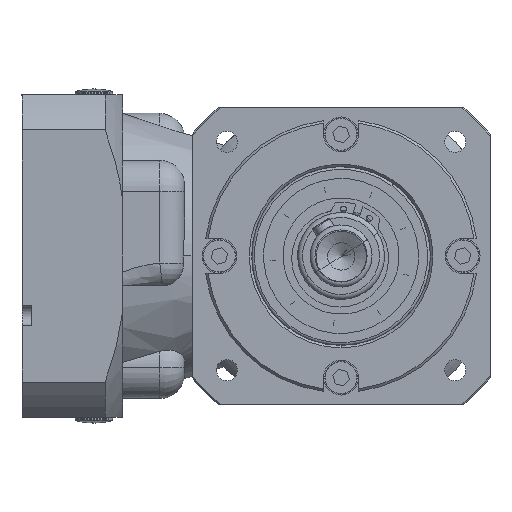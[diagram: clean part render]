
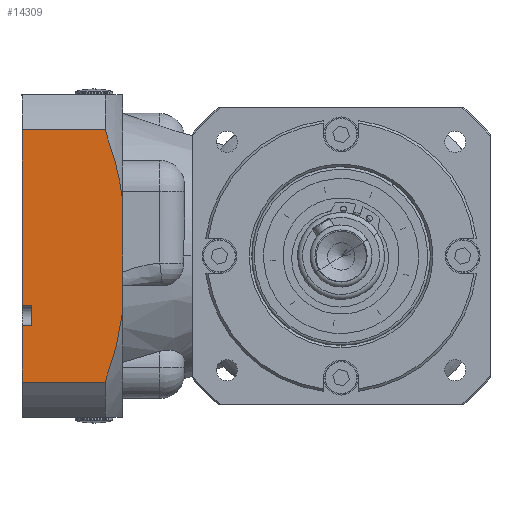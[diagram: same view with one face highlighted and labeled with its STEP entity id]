
A CAD part, left-side view. The second image highlights one B-rep face of the part: STEP entity #14309.
In plain terms, the highlighted planar face has unit normal (-1, 0, 0).
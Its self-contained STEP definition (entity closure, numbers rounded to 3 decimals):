
#297 = VERTEX_POINT ( 'NONE', #8775 ) ;
#523 = B_SPLINE_CURVE_WITH_KNOTS ( 'NONE', 3,
 ( #35094, #28456, #34962, #5567, #41083, #34814 ),
 .UNSPECIFIED., .F., .F.,
 ( 4, 2, 4 ),
 ( 0.023, 0.037, 0.052 ),
 .UNSPECIFIED. ) ;
#2352 = EDGE_LOOP ( 'NONE', ( #28753, #5098, #32883, #12032, #35536, #11761, #18416, #12507, #22423, #6814 ) ) ;
#2973 = LINE ( 'NONE', #25525, #25383 ) ;
#3571 = CARTESIAN_POINT ( 'NONE',  ( 108., 91.85, 41.691 ) ) ;
#4203 = CARTESIAN_POINT ( 'NONE',  ( 108., 88., 22.62 ) ) ;
#5098 = ORIENTED_EDGE ( 'NONE', *, *, #40612, .T. ) ;
#5104 = CARTESIAN_POINT ( 'NONE',  ( 108., 128.5, -65. ) ) ;
#5303 = VERTEX_POINT ( 'NONE', #26028 ) ;
#5336 = DIRECTION ( 'NONE',  ( 0., 1., 0. ) ) ;
#5567 = CARTESIAN_POINT ( 'NONE',  ( 108., 91.815, -41.566 ) ) ;
#6047 = DIRECTION ( 'NONE',  ( 0., -1., 0. ) ) ;
#6814 = ORIENTED_EDGE ( 'NONE', *, *, #23579, .F. ) ;
#6817 = CARTESIAN_POINT ( 'NONE',  ( 108., 90.109, 34.624 ) ) ;
#6864 = CARTESIAN_POINT ( 'NONE',  ( 108., 128.5, -28. ) ) ;
#7565 = CARTESIAN_POINT ( 'NONE',  ( 108., 128.5, 50.806 ) ) ;
#8084 = CARTESIAN_POINT ( 'NONE',  ( 108., 88., -65. ) ) ;
#8118 = EDGE_CURVE ( 'NONE', #33348, #28745, #2973, .T. ) ;
#8775 = CARTESIAN_POINT ( 'NONE',  ( 108., 95.052, -50.806 ) ) ;
#10093 = CARTESIAN_POINT ( 'NONE',  ( 108., 88.322, 25.033 ) ) ;
#11761 = ORIENTED_EDGE ( 'NONE', *, *, #20889, .T. ) ;
#11787 = EDGE_CURVE ( 'NONE', #39657, #33348, #11956, .T. ) ;
#11956 = LINE ( 'NONE', #17117, #36845 ) ;
#12003 = VECTOR ( 'NONE', #41308, 1000. ) ;
#12032 = ORIENTED_EDGE ( 'NONE', *, *, #8118, .F. ) ;
#12507 = ORIENTED_EDGE ( 'NONE', *, *, #21723, .T. ) ;
#13171 = CARTESIAN_POINT ( 'NONE',  ( 108., 124.5, -65. ) ) ;
#13729 = VECTOR ( 'NONE', #37725, 1000. ) ;
#14309 = ADVANCED_FACE ( 'NONE', ( #38707 ), #28135, .F. ) ;
#14612 = VERTEX_POINT ( 'NONE', #4203 ) ;
#14615 = VERTEX_POINT ( 'NONE', #19972 ) ;
#16766 = AXIS2_PLACEMENT_3D ( 'NONE', #5104, #41041, #40906 ) ;
#16784 = CARTESIAN_POINT ( 'NONE',  ( 108., 93.288, 46.305 ) ) ;
#17117 = CARTESIAN_POINT ( 'NONE',  ( 108., 128.5, -65. ) ) ;
#17582 = CARTESIAN_POINT ( 'NONE',  ( 108., 128.5, -28. ) ) ;
#17714 = CARTESIAN_POINT ( 'NONE',  ( 108., 85.5, -50.806 ) ) ;
#17837 = EDGE_CURVE ( 'NONE', #14615, #5303, #20626, .T. ) ;
#18071 = EDGE_CURVE ( 'NONE', #39174, #297, #523, .T. ) ;
#18416 = ORIENTED_EDGE ( 'NONE', *, *, #17837, .F. ) ;
#18729 = VECTOR ( 'NONE', #5336, 1000. ) ;
#19278 = CARTESIAN_POINT ( 'NONE',  ( 108., 95.052, 50.806 ) ) ;
#19740 = LINE ( 'NONE', #17714, #18729 ) ;
#19972 = CARTESIAN_POINT ( 'NONE',  ( 108., 124.5, -28. ) ) ;
#20626 = LINE ( 'NONE', #13171, #36877 ) ;
#20889 = EDGE_CURVE ( 'NONE', #39657, #5303, #28081, .T. ) ;
#21723 = EDGE_CURVE ( 'NONE', #14615, #39130, #21891, .T. ) ;
#21891 = LINE ( 'NONE', #17582, #33056 ) ;
#21999 = B_SPLINE_CURVE_WITH_KNOTS ( 'NONE', 3,
 ( #29163, #16784, #3571, #6817, #39507, #29574, #10093, #23325 ),
 .UNSPECIFIED., .F., .F.,
 ( 4, 2, 2, 4 ),
 ( 0.525, 0.539, 0.546, 0.553 ),
 .UNSPECIFIED. ) ;
#22262 = CARTESIAN_POINT ( 'NONE',  ( 108., 128.5, -65. ) ) ;
#22361 = LINE ( 'NONE', #8084, #13729 ) ;
#22423 = ORIENTED_EDGE ( 'NONE', *, *, #35267, .F. ) ;
#23325 = CARTESIAN_POINT ( 'NONE',  ( 108., 88., 22.62 ) ) ;
#23579 = EDGE_CURVE ( 'NONE', #297, #27554, #19740, .T. ) ;
#24140 = DIRECTION ( 'NONE',  ( 0., 1., 0. ) ) ;
#25383 = VECTOR ( 'NONE', #6047, 1000. ) ;
#25525 = CARTESIAN_POINT ( 'NONE',  ( 108., 85.5, 50.806 ) ) ;
#25555 = DIRECTION ( 'NONE',  ( 0., 0., 1. ) ) ;
#26028 = CARTESIAN_POINT ( 'NONE',  ( 108., 124.5, -20. ) ) ;
#26380 = CARTESIAN_POINT ( 'NONE',  ( 108., 88., -22.62 ) ) ;
#27068 = EDGE_CURVE ( 'NONE', #28745, #14612, #21999, .T. ) ;
#27554 = VERTEX_POINT ( 'NONE', #39754 ) ;
#28081 = LINE ( 'NONE', #28804, #37701 ) ;
#28135 = PLANE ( 'NONE',  #16766 ) ;
#28280 = LINE ( 'NONE', #22262, #12003 ) ;
#28456 = CARTESIAN_POINT ( 'NONE',  ( 108., 88.639, -27.411 ) ) ;
#28745 = VERTEX_POINT ( 'NONE', #19278 ) ;
#28753 = ORIENTED_EDGE ( 'NONE', *, *, #18071, .F. ) ;
#28804 = CARTESIAN_POINT ( 'NONE',  ( 108., 128.5, -20. ) ) ;
#29163 = CARTESIAN_POINT ( 'NONE',  ( 108., 95.052, 50.806 ) ) ;
#29574 = CARTESIAN_POINT ( 'NONE',  ( 108., 88.703, 27.44 ) ) ;
#32883 = ORIENTED_EDGE ( 'NONE', *, *, #27068, .F. ) ;
#33056 = VECTOR ( 'NONE', #24140, 1000. ) ;
#33348 = VERTEX_POINT ( 'NONE', #7565 ) ;
#34814 = CARTESIAN_POINT ( 'NONE',  ( 108., 95.052, -50.806 ) ) ;
#34962 = CARTESIAN_POINT ( 'NONE',  ( 108., 89.507, -32.163 ) ) ;
#35094 = CARTESIAN_POINT ( 'NONE',  ( 108., 88., -22.62 ) ) ;
#35267 = EDGE_CURVE ( 'NONE', #27554, #39130, #28280, .T. ) ;
#35536 = ORIENTED_EDGE ( 'NONE', *, *, #11787, .F. ) ;
#35541 = CARTESIAN_POINT ( 'NONE',  ( 108., 128.5, -20. ) ) ;
#36845 = VECTOR ( 'NONE', #39439, 1000. ) ;
#36877 = VECTOR ( 'NONE', #25555, 1000. ) ;
#37701 = VECTOR ( 'NONE', #41429, 1000. ) ;
#37725 = DIRECTION ( 'NONE',  ( 0., 0., 1. ) ) ;
#38707 = FACE_OUTER_BOUND ( 'NONE', #2352, .T. ) ;
#39130 = VERTEX_POINT ( 'NONE', #6864 ) ;
#39174 = VERTEX_POINT ( 'NONE', #26380 ) ;
#39439 = DIRECTION ( 'NONE',  ( 0., 0., 1. ) ) ;
#39507 = CARTESIAN_POINT ( 'NONE',  ( 108., 89.598, 32.244 ) ) ;
#39657 = VERTEX_POINT ( 'NONE', #35541 ) ;
#39754 = CARTESIAN_POINT ( 'NONE',  ( 108., 128.5, -50.806 ) ) ;
#40612 = EDGE_CURVE ( 'NONE', #39174, #14612, #22361, .T. ) ;
#40906 = DIRECTION ( 'NONE',  ( 0., 0., -1. ) ) ;
#41041 = DIRECTION ( 'NONE',  ( 1., 0., 0. ) ) ;
#41083 = CARTESIAN_POINT ( 'NONE',  ( 108., 93.254, -46.217 ) ) ;
#41308 = DIRECTION ( 'NONE',  ( 0., 0., 1. ) ) ;
#41429 = DIRECTION ( 'NONE',  ( 0., -1., 0. ) ) ;
